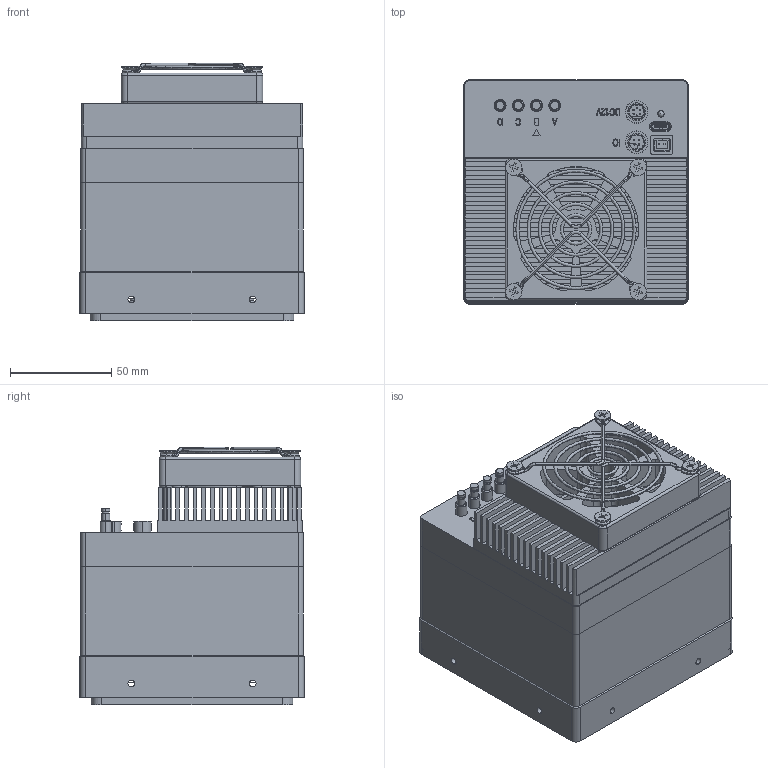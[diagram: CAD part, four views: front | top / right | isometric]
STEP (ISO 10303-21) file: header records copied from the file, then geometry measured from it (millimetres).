
FILE_DESCRIPTION (( 'STEP AP203' ), '1' );
FILE_NAME ('PS151MCXP-total-asm-202201017.STEP', '2022-11-28T02:45:04', ( '123' ), ( ' ' ), 'SwSTEP 2.0', 'SolidWorks 2017', '' );
FILE_SCHEMA (( 'CONFIG_CONTROL_DESIGN' ));
Length unit declared in the file: millimetre
Products named in the file (1): PS151MCXP-total-asm-202201017
Bounding box: 111 x 111 x 127.3 mm (x, y, z)
Surface area: 153088.4 mm2 (no closed solid volume)
Topology: 0 solids, 74 shells, 938 faces, 3319 edges, 2386 vertices
Faces by surface type: plane 425, cylinder 330, bspline 84, cone 66, torus 24, sphere 9
Entity records: 38945 total; most frequent: CARTESIAN_POINT 10915, DIRECTION 5913, ORIENTED_EDGE 5172, EDGE_CURVE 3286, VERTEX_POINT 2376, AXIS2_PLACEMENT_3D 1974, VECTOR 1965, LINE 1965
